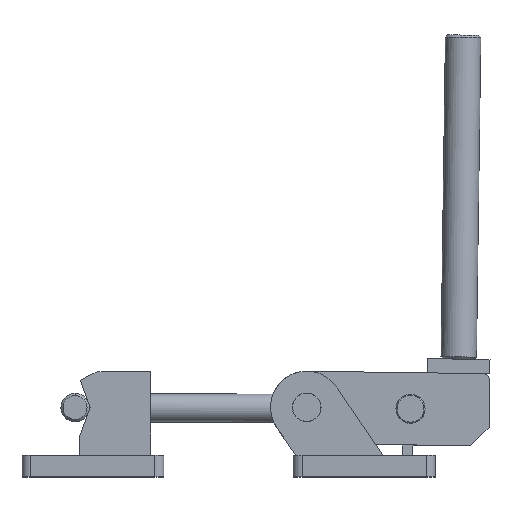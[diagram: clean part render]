
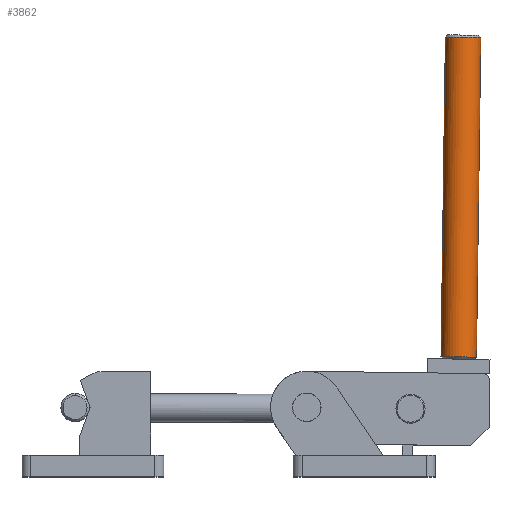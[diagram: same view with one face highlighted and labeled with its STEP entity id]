
A CAD part, top view. The second image highlights one B-rep face of the part: STEP entity #3862.
In plain terms, the highlighted cylindrical face has radius 7.938 mm (diameter 15.875 mm), a partial arc.
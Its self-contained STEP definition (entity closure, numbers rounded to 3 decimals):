
#6 = EDGE_CURVE ( 'NONE', #4955, #4284, #4684, .T. ) ;
#167 = CARTESIAN_POINT ( 'NONE',  ( 0., 144., 7.938 ) ) ;
#352 = DIRECTION ( 'NONE',  ( 0., -1., 0. ) ) ;
#501 = DIRECTION ( 'NONE',  ( 0., -1., 0. ) ) ;
#672 = VECTOR ( 'NONE', #501, 1000. ) ;
#720 = EDGE_LOOP ( 'NONE', ( #2836, #5010, #4502, #3981 ) ) ;
#730 = CARTESIAN_POINT ( 'NONE',  ( 0., 145., 0. ) ) ;
#1194 = CARTESIAN_POINT ( 'NONE',  ( 0., 1., 0. ) ) ;
#1385 = CARTESIAN_POINT ( 'NONE',  ( 0., 144., -7.938 ) ) ;
#1518 = CIRCLE ( 'NONE', #3509, 7.938 ) ;
#1885 = AXIS2_PLACEMENT_3D ( 'NONE', #1194, #2810, #2684 ) ;
#1992 = CARTESIAN_POINT ( 'NONE',  ( 0., 1., -7.938 ) ) ;
#2124 = CYLINDRICAL_SURFACE ( 'NONE', #5359, 7.938 ) ;
#2644 = CARTESIAN_POINT ( 'NONE',  ( 0., 145., -7.938 ) ) ;
#2655 = DIRECTION ( 'NONE',  ( 0., -1., 0. ) ) ;
#2684 = DIRECTION ( 'NONE',  ( 0., 0., 1. ) ) ;
#2810 = DIRECTION ( 'NONE',  ( 0., 1., 0. ) ) ;
#2836 = ORIENTED_EDGE ( 'NONE', *, *, #4048, .T. ) ;
#3141 = DIRECTION ( 'NONE',  ( 0., -1., 0. ) ) ;
#3250 = CARTESIAN_POINT ( 'NONE',  ( 0., 144., 0. ) ) ;
#3509 = AXIS2_PLACEMENT_3D ( 'NONE', #3250, #352, #3746 ) ;
#3746 = DIRECTION ( 'NONE',  ( 0., 0., 1. ) ) ;
#3862 = ADVANCED_FACE ( 'NONE', ( #4731 ), #2124, .T. ) ;
#3869 = VECTOR ( 'NONE', #3141, 1000. ) ;
#3899 = CARTESIAN_POINT ( 'NONE',  ( 0., 145., 7.938 ) ) ;
#3981 = ORIENTED_EDGE ( 'NONE', *, *, #5112, .F. ) ;
#4048 = EDGE_CURVE ( 'NONE', #6006, #4889, #1518, .T. ) ;
#4074 = CARTESIAN_POINT ( 'NONE',  ( 0., 1., 7.938 ) ) ;
#4130 = DIRECTION ( 'NONE',  ( 0., 0., -1. ) ) ;
#4284 = VERTEX_POINT ( 'NONE', #1992 ) ;
#4399 = LINE ( 'NONE', #3899, #672 ) ;
#4502 = ORIENTED_EDGE ( 'NONE', *, *, #6, .T. ) ;
#4684 = CIRCLE ( 'NONE', #1885, 7.938 ) ;
#4731 = FACE_OUTER_BOUND ( 'NONE', #720, .T. ) ;
#4889 = VERTEX_POINT ( 'NONE', #167 ) ;
#4955 = VERTEX_POINT ( 'NONE', #4074 ) ;
#5010 = ORIENTED_EDGE ( 'NONE', *, *, #6126, .T. ) ;
#5112 = EDGE_CURVE ( 'NONE', #6006, #4284, #5290, .T. ) ;
#5290 = LINE ( 'NONE', #2644, #3869 ) ;
#5359 = AXIS2_PLACEMENT_3D ( 'NONE', #730, #2655, #4130 ) ;
#6006 = VERTEX_POINT ( 'NONE', #1385 ) ;
#6126 = EDGE_CURVE ( 'NONE', #4889, #4955, #4399, .T. ) ;
